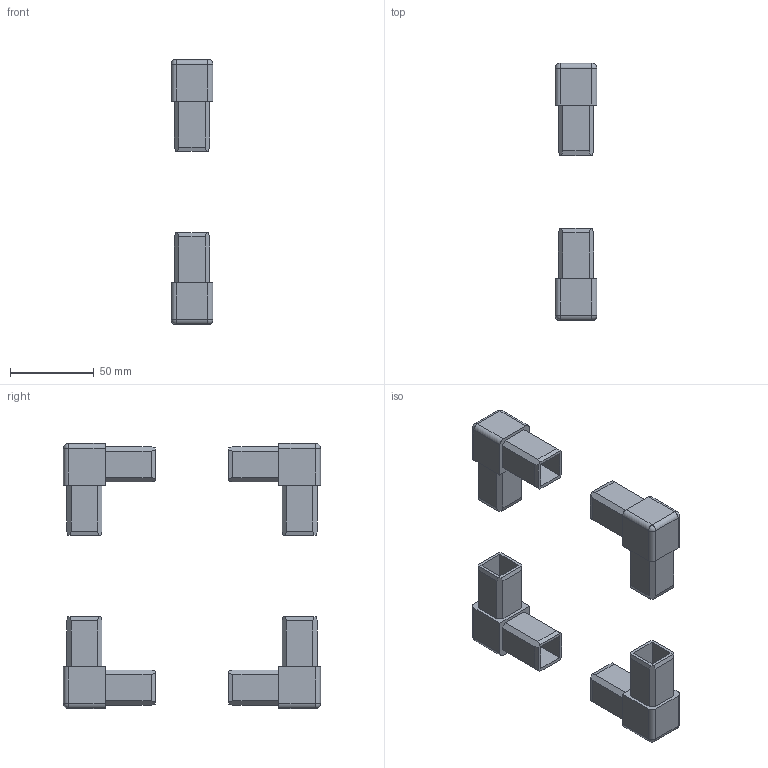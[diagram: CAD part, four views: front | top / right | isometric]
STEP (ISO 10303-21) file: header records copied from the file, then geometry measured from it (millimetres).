
FILE_DESCRIPTION (( 'STEP AP214' ), '1' );
FILE_NAME ('L15802 ENS.step', '2024-12-03T16:21:40', ( '' ), ( '' ), 'SwSTEP 2.0', 'SolidWorks 2023', '' );
FILE_SCHEMA (( 'AUTOMOTIVE_DESIGN' ));
Length unit declared in the file: millimetre
Products named in the file (2): L15802; L15802 ENS
Assembly tree (4 placements, depth 2):
  L15802 ENS
    L15802  x4
Bounding box: 25 x 153.86 x 158.62 mm (x, y, z)
Volume: 79974.9 mm3; surface area: 56775.6 mm2
Topology: 4 solids, 4 shells, 196 faces, 508 edges, 328 vertices
Faces by surface type: plane 160, cylinder 28, sphere 8
Full cylindrical faces by diameter (mm): 7 x4, 10 x4
Entity records: 1516 total; most frequent: CARTESIAN_POINT 257, DIRECTION 247, ORIENTED_EDGE 242, EDGE_CURVE 121, LINE 107, VECTOR 107, VERTEX_POINT 80, AXIS2_PLACEMENT_3D 70
